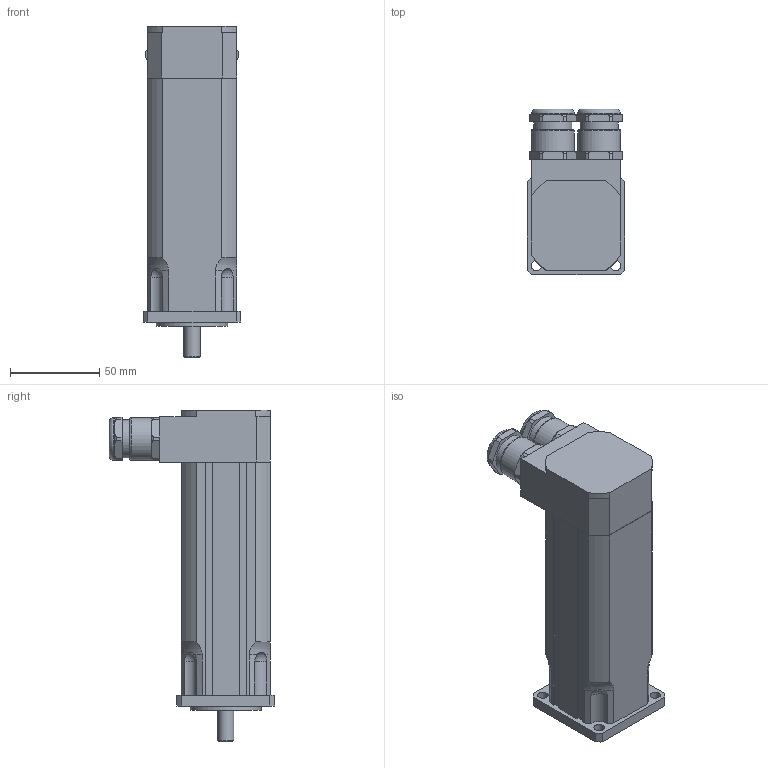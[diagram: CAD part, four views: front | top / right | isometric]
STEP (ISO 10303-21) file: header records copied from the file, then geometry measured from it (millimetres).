
FILE_DESCRIPTION(/* description */ ('Alibre Inc.'),/* implementation_level */ '2;1');
FILE_NAME(/* name */ 'export0',/* time_stamp */ '2011-07-27T13:14:01+02:00',/* author */ (''),/* organization */ (''),/* preprocessor_version */ 'ST-DEVELOPER v12',/* originating_system */ 'Alibre',/* authorisation */ '');
FILE_SCHEMA (('CONFIG_CONTROL_DESIGN'));
Length unit declared in the file: millimetre
Products named in the file (4): ID_1
Bounding box: 55 x 92.9 x 186 mm (x, y, z)
Volume: 428207 mm3; surface area: 56792.6 mm2
Topology: 4 solids, 6 shells, 216 faces, 541 edges, 349 vertices
Faces by surface type: plane 108, cylinder 63, torus 32, bspline 8, sphere 4, cone 1
Full cylindrical faces by diameter (mm): 9 x1, 12 x2, 20 x4, 21.4 x2, 24 x4, 26 x1, 40 x1
Entity records: 5909 total; most frequent: CARTESIAN_POINT 1913, ORIENTED_EDGE 742, DIRECTION 666, EDGE_CURVE 371, AXIS2_PLACEMENT_3D 282, VERTEX_POINT 253, VECTOR 194, LINE 194
